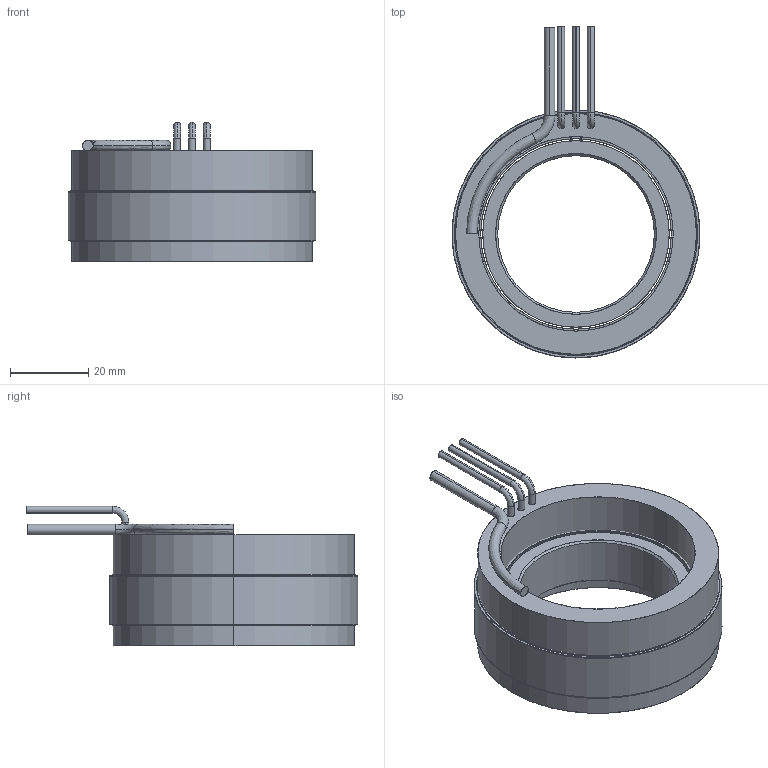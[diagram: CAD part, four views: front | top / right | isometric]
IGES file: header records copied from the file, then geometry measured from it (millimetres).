
Start section: SolidWorks IGES file using analytic representation for surfaces
Global section: file name: \\fs01.aveox.local\user documents\eng\My Documents\6100391-XX UAV STANDARD STATOR AND ROTOR SET 2.5OD 27S24P\6100391-01.IGS; native system: SolidWorks 2016; preprocessor: SolidWorks 2016; author: eng; date: 201214.173107; units: inch
Bounding box: 63.5 x 84.96 x 35.69 mm (x, y, z)
Surface area: 34726.6 mm2 (no closed solid volume)
Topology: 0 solids, 0 shells, 75 faces, 2288 edges, 2288 vertices
Faces by surface type: revolution 46, bspline 29
